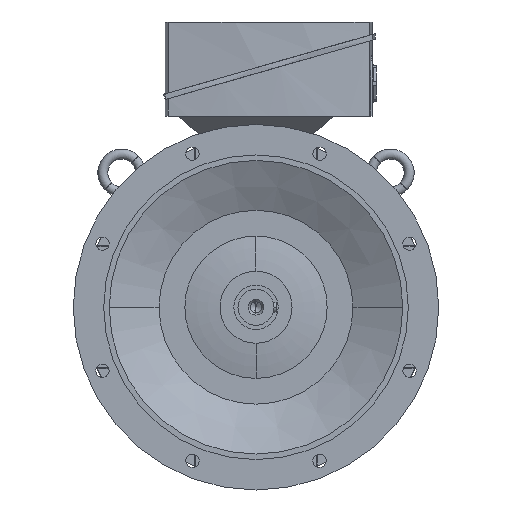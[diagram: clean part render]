
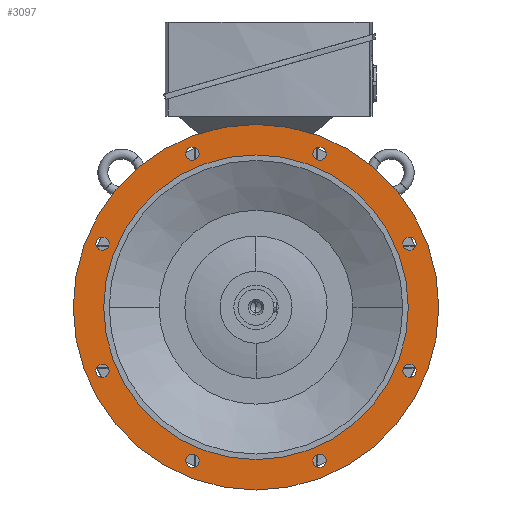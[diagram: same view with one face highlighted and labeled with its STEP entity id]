
A CAD part, left-side view. The second image highlights one B-rep face of the part: STEP entity #3097.
In plain terms, the highlighted planar face has unit normal (-1, 0, 0).
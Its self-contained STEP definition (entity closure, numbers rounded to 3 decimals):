
#3097=ADVANCED_FACE('',(#6685,#6686,#6687,#6688,#6689,#6690,#6691,#6692,#6693,#6694),#6695,.T.);
#6685=FACE_BOUND('',#10739,.T.);
#6686=FACE_BOUND('',#10740,.T.);
#6687=FACE_BOUND('',#10741,.T.);
#6688=FACE_BOUND('',#10742,.T.);
#6689=FACE_BOUND('',#10743,.T.);
#6690=FACE_BOUND('',#10744,.T.);
#6691=FACE_BOUND('',#10745,.T.);
#6692=FACE_BOUND('',#10746,.T.);
#6693=FACE_OUTER_BOUND('',#10747,.T.);
#6694=FACE_BOUND('',#10748,.T.);
#6695=PLANE('',#10749);
#10739=EDGE_LOOP('',(#19911,#19912));
#10740=EDGE_LOOP('',(#19913,#19914));
#10741=EDGE_LOOP('',(#19915,#19916));
#10742=EDGE_LOOP('',(#19917,#19918));
#10743=EDGE_LOOP('',(#19919,#19920));
#10744=EDGE_LOOP('',(#19921,#19922));
#10745=EDGE_LOOP('',(#19923,#19924));
#10746=EDGE_LOOP('',(#19925,#19926));
#10747=EDGE_LOOP('',(#19927,#19928));
#10748=EDGE_LOOP('',(#19929,#19930));
#10749=AXIS2_PLACEMENT_3D('',#19931,#19932,#19933);
#19911=ORIENTED_EDGE('',*,*,#28350,.T.);
#19912=ORIENTED_EDGE('',*,*,#25075,.T.);
#19913=ORIENTED_EDGE('',*,*,#28351,.T.);
#19914=ORIENTED_EDGE('',*,*,#25080,.T.);
#19915=ORIENTED_EDGE('',*,*,#28352,.T.);
#19916=ORIENTED_EDGE('',*,*,#25085,.T.);
#19917=ORIENTED_EDGE('',*,*,#28353,.T.);
#19918=ORIENTED_EDGE('',*,*,#25090,.T.);
#19919=ORIENTED_EDGE('',*,*,#28354,.T.);
#19920=ORIENTED_EDGE('',*,*,#25095,.T.);
#19921=ORIENTED_EDGE('',*,*,#28355,.T.);
#19922=ORIENTED_EDGE('',*,*,#25100,.T.);
#19923=ORIENTED_EDGE('',*,*,#28356,.T.);
#19924=ORIENTED_EDGE('',*,*,#25105,.T.);
#19925=ORIENTED_EDGE('',*,*,#28357,.T.);
#19926=ORIENTED_EDGE('',*,*,#25110,.T.);
#19927=ORIENTED_EDGE('',*,*,#25115,.F.);
#19928=ORIENTED_EDGE('',*,*,#28358,.F.);
#19929=ORIENTED_EDGE('',*,*,#25173,.T.);
#19930=ORIENTED_EDGE('',*,*,#26801,.T.);
#19931=CARTESIAN_POINT('',(-110.0,302.5,0.0));
#19932=DIRECTION('',(-1.0,0.0,0.0));
#19933=DIRECTION('',(0.0,-1.0,0.0));
#25075=EDGE_CURVE('',#30282,#30279,#30283,.T.);
#25080=EDGE_CURVE('',#30291,#30288,#30292,.T.);
#25085=EDGE_CURVE('',#30300,#30297,#30301,.T.);
#25090=EDGE_CURVE('',#30309,#30306,#30310,.T.);
#25095=EDGE_CURVE('',#30318,#30315,#30319,.T.);
#25100=EDGE_CURVE('',#30327,#30324,#30328,.T.);
#25105=EDGE_CURVE('',#30336,#30333,#30337,.T.);
#25110=EDGE_CURVE('',#30345,#30342,#30346,.T.);
#25115=EDGE_CURVE('',#30351,#30354,#30355,.T.);
#25173=EDGE_CURVE('',#30454,#30458,#30460,.T.);
#26801=EDGE_CURVE('',#30458,#30454,#32904,.T.);
#28350=EDGE_CURVE('',#30279,#30282,#35279,.T.);
#28351=EDGE_CURVE('',#30288,#30291,#35280,.T.);
#28352=EDGE_CURVE('',#30297,#30300,#35281,.T.);
#28353=EDGE_CURVE('',#30306,#30309,#35282,.T.);
#28354=EDGE_CURVE('',#30315,#30318,#35283,.T.);
#28355=EDGE_CURVE('',#30324,#30327,#35284,.T.);
#28356=EDGE_CURVE('',#30333,#30336,#35285,.T.);
#28357=EDGE_CURVE('',#30342,#30345,#35286,.T.);
#28358=EDGE_CURVE('',#30354,#30351,#35287,.T.);
#30279=VERTEX_POINT('',#38361);
#30282=VERTEX_POINT('',#38365);
#30283=CIRCLE('',#38366,12.0);
#30288=VERTEX_POINT('',#38372);
#30291=VERTEX_POINT('',#38376);
#30292=CIRCLE('',#38377,12.0);
#30297=VERTEX_POINT('',#38383);
#30300=VERTEX_POINT('',#38387);
#30301=CIRCLE('',#38388,12.0);
#30306=VERTEX_POINT('',#38394);
#30309=VERTEX_POINT('',#38398);
#30310=CIRCLE('',#38399,12.0);
#30315=VERTEX_POINT('',#38405);
#30318=VERTEX_POINT('',#38409);
#30319=CIRCLE('',#38410,12.0);
#30324=VERTEX_POINT('',#38416);
#30327=VERTEX_POINT('',#38420);
#30328=CIRCLE('',#38421,12.0);
#30333=VERTEX_POINT('',#38427);
#30336=VERTEX_POINT('',#38431);
#30337=CIRCLE('',#38432,12.0);
#30342=VERTEX_POINT('',#38438);
#30345=VERTEX_POINT('',#38442);
#30346=CIRCLE('',#38443,12.0);
#30351=VERTEX_POINT('',#38449);
#30354=VERTEX_POINT('',#38453);
#30355=CIRCLE('',#38454,330.0);
#30454=VERTEX_POINT('',#38930);
#30458=VERTEX_POINT('',#38935);
#30460=CIRCLE('',#38938,275.0);
#32904=CIRCLE('',#43643,275.0);
#35279=CIRCLE('',#51091,12.0);
#35280=CIRCLE('',#51092,12.0);
#35281=CIRCLE('',#51093,12.0);
#35282=CIRCLE('',#51094,12.0);
#35283=CIRCLE('',#51095,12.0);
#35284=CIRCLE('',#51096,12.0);
#35285=CIRCLE('',#51097,12.0);
#35286=CIRCLE('',#51098,12.0);
#35287=CIRCLE('',#51099,330.0);
#38361=CARTESIAN_POINT('',(-110.0,-288.25,119.397));
#38365=CARTESIAN_POINT('',(-110.0,-266.077,110.213));
#38366=AXIS2_PLACEMENT_3D('',#57378,#57379,#57380);
#38372=CARTESIAN_POINT('',(-110.0,-288.25,-119.397));
#38376=CARTESIAN_POINT('',(-110.0,-266.077,-110.213));
#38377=AXIS2_PLACEMENT_3D('',#57386,#57387,#57388);
#38383=CARTESIAN_POINT('',(-110.0,-119.397,-288.25));
#38387=CARTESIAN_POINT('',(-110.0,-110.213,-266.077));
#38388=AXIS2_PLACEMENT_3D('',#57394,#57395,#57396);
#38394=CARTESIAN_POINT('',(-110.0,119.397,-288.25));
#38398=CARTESIAN_POINT('',(-110.0,110.213,-266.077));
#38399=AXIS2_PLACEMENT_3D('',#57402,#57403,#57404);
#38405=CARTESIAN_POINT('',(-110.0,288.25,-119.397));
#38409=CARTESIAN_POINT('',(-110.0,266.077,-110.213));
#38410=AXIS2_PLACEMENT_3D('',#57410,#57411,#57412);
#38416=CARTESIAN_POINT('',(-110.0,288.25,119.397));
#38420=CARTESIAN_POINT('',(-110.0,266.077,110.213));
#38421=AXIS2_PLACEMENT_3D('',#57418,#57419,#57420);
#38427=CARTESIAN_POINT('',(-110.0,119.397,288.25));
#38431=CARTESIAN_POINT('',(-110.0,110.213,266.077));
#38432=AXIS2_PLACEMENT_3D('',#57426,#57427,#57428);
#38438=CARTESIAN_POINT('',(-110.0,-119.397,288.25));
#38442=CARTESIAN_POINT('',(-110.0,-110.213,266.077));
#38443=AXIS2_PLACEMENT_3D('',#57434,#57435,#57436);
#38449=CARTESIAN_POINT('',(-110.0,330.0,0.0));
#38453=CARTESIAN_POINT('',(-110.0,-330.0,0.));
#38454=AXIS2_PLACEMENT_3D('',#57442,#57443,#57444);
#38930=CARTESIAN_POINT('',(-110.0,275.0,0.0));
#38935=CARTESIAN_POINT('',(-110.0,-275.0,0.));
#38938=AXIS2_PLACEMENT_3D('',#57512,#57513,#57514);
#43643=AXIS2_PLACEMENT_3D('',#59297,#59298,#59299);
#51091=AXIS2_PLACEMENT_3D('',#60977,#60978,#60979);
#51092=AXIS2_PLACEMENT_3D('',#60980,#60981,#60982);
#51093=AXIS2_PLACEMENT_3D('',#60983,#60984,#60985);
#51094=AXIS2_PLACEMENT_3D('',#60986,#60987,#60988);
#51095=AXIS2_PLACEMENT_3D('',#60989,#60990,#60991);
#51096=AXIS2_PLACEMENT_3D('',#60992,#60993,#60994);
#51097=AXIS2_PLACEMENT_3D('',#60995,#60996,#60997);
#51098=AXIS2_PLACEMENT_3D('',#60998,#60999,#61000);
#51099=AXIS2_PLACEMENT_3D('',#61001,#61002,#61003);
#57378=CARTESIAN_POINT('',(-110.0,-277.164,114.805));
#57379=DIRECTION('',(1.0,0.0,-0.0));
#57380=DIRECTION('',(0.0,-0.924,0.383));
#57386=CARTESIAN_POINT('',(-110.0,-277.164,-114.805));
#57387=DIRECTION('',(1.0,0.0,0.0));
#57388=DIRECTION('',(0.0,-0.924,-0.383));
#57394=CARTESIAN_POINT('',(-110.0,-114.805,-277.164));
#57395=DIRECTION('',(1.0,0.0,0.0));
#57396=DIRECTION('',(0.0,-0.383,-0.924));
#57402=CARTESIAN_POINT('',(-110.0,114.805,-277.164));
#57403=DIRECTION('',(1.0,-0.0,0.0));
#57404=DIRECTION('',(0.0,0.383,-0.924));
#57410=CARTESIAN_POINT('',(-110.0,277.164,-114.805));
#57411=DIRECTION('',(1.0,-0.0,0.0));
#57412=DIRECTION('',(0.0,0.924,-0.383));
#57418=CARTESIAN_POINT('',(-110.0,277.164,114.805));
#57419=DIRECTION('',(1.0,0.0,-0.0));
#57420=DIRECTION('',(0.0,0.924,0.383));
#57426=CARTESIAN_POINT('',(-110.0,114.805,277.164));
#57427=DIRECTION('',(1.0,0.0,-0.0));
#57428=DIRECTION('',(0.0,0.383,0.924));
#57434=CARTESIAN_POINT('',(-110.0,-114.805,277.164));
#57435=DIRECTION('',(1.0,0.0,-0.0));
#57436=DIRECTION('',(0.0,-0.383,0.924));
#57442=CARTESIAN_POINT('',(-110.0,0.0,0.0));
#57443=DIRECTION('',(1.0,0.0,0.0));
#57444=DIRECTION('',(0.0,1.0,0.0));
#57512=CARTESIAN_POINT('',(-110.0,0.0,0.0));
#57513=DIRECTION('',(1.0,0.0,0.0));
#57514=DIRECTION('',(0.0,1.0,0.0));
#59297=CARTESIAN_POINT('',(-110.0,0.0,0.0));
#59298=DIRECTION('',(1.0,0.0,0.0));
#59299=DIRECTION('',(0.0,1.0,0.0));
#60977=CARTESIAN_POINT('',(-110.0,-277.164,114.805));
#60978=DIRECTION('',(1.0,0.0,-0.0));
#60979=DIRECTION('',(0.0,-0.924,0.383));
#60980=CARTESIAN_POINT('',(-110.0,-277.164,-114.805));
#60981=DIRECTION('',(1.0,0.0,0.0));
#60982=DIRECTION('',(0.0,-0.924,-0.383));
#60983=CARTESIAN_POINT('',(-110.0,-114.805,-277.164));
#60984=DIRECTION('',(1.0,0.0,0.0));
#60985=DIRECTION('',(0.0,-0.383,-0.924));
#60986=CARTESIAN_POINT('',(-110.0,114.805,-277.164));
#60987=DIRECTION('',(1.0,-0.0,0.0));
#60988=DIRECTION('',(0.0,0.383,-0.924));
#60989=CARTESIAN_POINT('',(-110.0,277.164,-114.805));
#60990=DIRECTION('',(1.0,-0.0,0.0));
#60991=DIRECTION('',(0.0,0.924,-0.383));
#60992=CARTESIAN_POINT('',(-110.0,277.164,114.805));
#60993=DIRECTION('',(1.0,0.0,-0.0));
#60994=DIRECTION('',(0.0,0.924,0.383));
#60995=CARTESIAN_POINT('',(-110.0,114.805,277.164));
#60996=DIRECTION('',(1.0,0.0,-0.0));
#60997=DIRECTION('',(0.0,0.383,0.924));
#60998=CARTESIAN_POINT('',(-110.0,-114.805,277.164));
#60999=DIRECTION('',(1.0,0.0,-0.0));
#61000=DIRECTION('',(0.0,-0.383,0.924));
#61001=CARTESIAN_POINT('',(-110.0,0.0,0.0));
#61002=DIRECTION('',(1.0,0.0,0.0));
#61003=DIRECTION('',(0.0,1.0,0.0));
